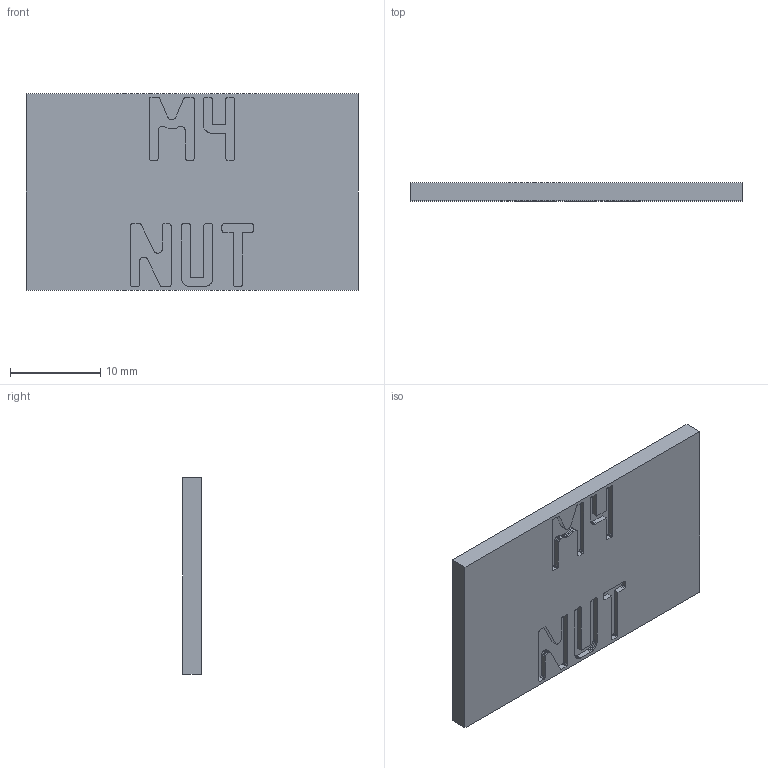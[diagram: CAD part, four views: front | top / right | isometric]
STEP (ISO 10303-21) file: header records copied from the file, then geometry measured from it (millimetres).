
FILE_DESCRIPTION(('Open CASCADE Model'),'2;1');
FILE_NAME('Open CASCADE Shape Model','2026-11-03T17:10:26',('Author'),( 'Open CASCADE'),'Open CASCADE STEP processor 8.0','build123d', 'Unknown');
FILE_SCHEMA(('AUTOMOTIVE_DESIGN { 1 0 10303 214 1 1 1 1 }'));
Length unit declared in the file: millimetre
Products named in the file (2): =>[0:1:1:2]; COMPOUND
Assembly tree (1 placements, depth 2):
  =>[0:1:1:2]
    COMPOUND
Bounding box: 36.8 x 2 x 21.8 mm (x, y, z)
Volume: 1558 mm3; surface area: 1925.4 mm2
Topology: 1 solids, 1 shells, 425 faces, 1254 edges, 836 vertices
Faces by surface type: plane 425
Entity records: 30198 total; most frequent: CARTESIAN_POINT 5025, DIRECTION 4616, LINE 3762, VECTOR 3762, ORIENTED_EDGE 2508, PCURVE 2508, DEFINITIONAL_REPRESENTATION 2508, EDGE_CURVE 1254
